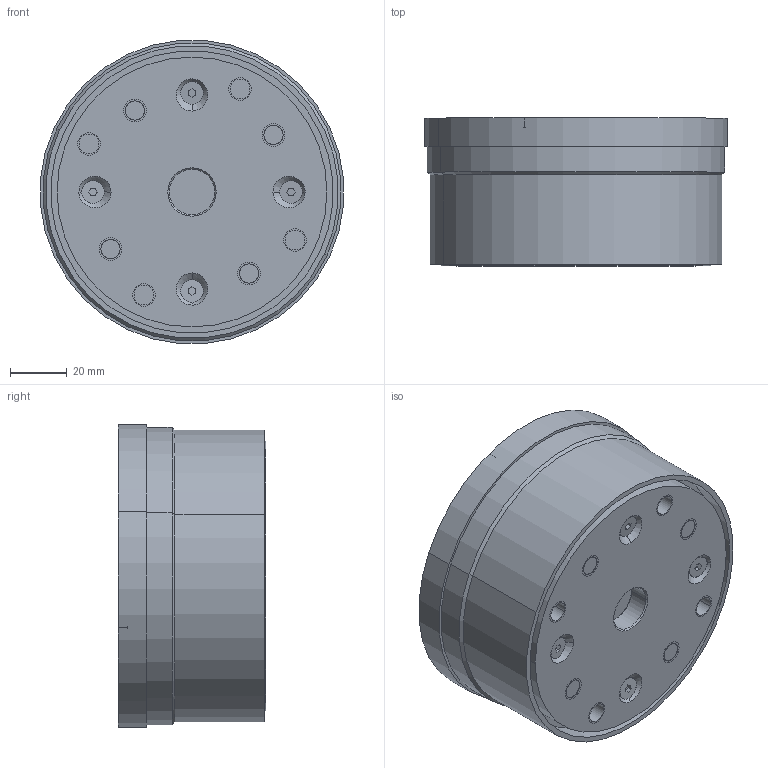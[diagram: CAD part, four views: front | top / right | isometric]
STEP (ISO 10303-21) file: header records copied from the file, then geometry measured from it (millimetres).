
FILE_DESCRIPTION((''),'2;1');
FILE_NAME('BS6-120-095','2018-02-27T',('CSW'),(''),'CREO PARAMETRIC BY PTC INC, 2016260','CREO PARAMETRIC BY PTC INC, 2016260','');
FILE_SCHEMA(('AUTOMOTIVE_DESIGN { 1 0 10303 214 1 1 1 1 }'));
Length unit declared in the file: millimetre
Products named in the file (1): BS6-120-095
Bounding box: 106.59 x 52 x 106.59 mm (x, y, z)
Volume: 430078.3 mm3; surface area: 49443.9 mm2
Topology: 1 solids, 53 shells, 525 faces, 1160 edges, 722 vertices
Faces by surface type: cylinder 218, plane 211, cone 80, torus 16
Entity records: 14759 total; most frequent: CARTESIAN_POINT 2729, DIRECTION 2710, ORIENTED_EDGE 2160, EDGE_CURVE 1144, AXIS2_PLACEMENT_3D 1072, VERTEX_POINT 722, EDGE_LOOP 610, VECTOR 566
